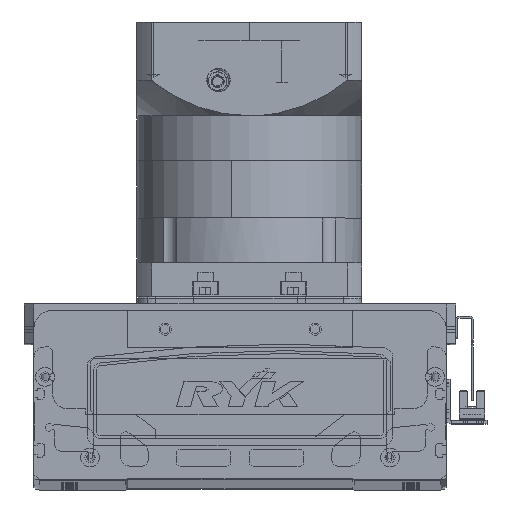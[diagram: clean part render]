
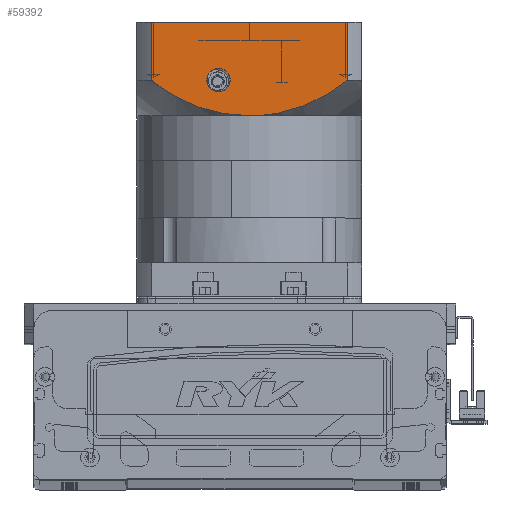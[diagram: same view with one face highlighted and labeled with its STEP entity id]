
A CAD part, top view. The second image highlights one B-rep face of the part: STEP entity #59392.
In plain terms, the highlighted planar face has unit normal (0, 0, 1) as drawn and (0, -1, 0) by its records, which use the part's own axes.
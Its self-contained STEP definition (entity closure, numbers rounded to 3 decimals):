
#113 = CARTESIAN_POINT ( 'NONE',  ( -32.118, -60., -107.084 ) ) ;
#1235 = VECTOR ( 'NONE', #38017, 1000. ) ;
#2153 = DIRECTION ( 'NONE',  ( 0., 0., 1. ) ) ;
#2255 = EDGE_CURVE ( 'NONE', #7006, #65234, #16161, .T. ) ;
#2342 = CARTESIAN_POINT ( 'NONE',  ( 32.196, -60., -107.007 ) ) ;
#2591 = CARTESIAN_POINT ( 'NONE',  ( 16.426, -60., -102.169 ) ) ;
#3098 = CARTESIAN_POINT ( 'NONE',  ( 18.739, -60., -102.681 ) ) ;
#3407 = DIRECTION ( 'NONE',  ( 0., -1., 0. ) ) ;
#3782 = EDGE_CURVE ( 'NONE', #61945, #25130, #24673, .T. ) ;
#3827 = AXIS2_PLACEMENT_3D ( 'NONE', #73370, #45134, #55467 ) ;
#5071 = EDGE_CURVE ( 'NONE', #64878, #55825, #64120, .T. ) ;
#5115 = CARTESIAN_POINT ( 'NONE',  ( 0., -60., -100.5 ) ) ;
#5907 = EDGE_CURVE ( 'NONE', #61945, #34708, #67157, .T. ) ;
#7006 = VERTEX_POINT ( 'NONE', #5115 ) ;
#8102 = CARTESIAN_POINT ( 'NONE',  ( 9.454, -60., -100.914 ) ) ;
#9421 = DIRECTION ( 'NONE',  ( 1., 0., 0. ) ) ;
#11668 = CARTESIAN_POINT ( 'NONE',  ( -29.939, -60., -106.183 ) ) ;
#12165 = ORIENTED_EDGE ( 'NONE', *, *, #5071, .T. ) ;
#12696 = CARTESIAN_POINT ( 'NONE',  ( -52.156, -60., -119.5 ) ) ;
#13775 = CARTESIAN_POINT ( 'NONE',  ( 52.156, -60., -150.5 ) ) ;
#13896 = EDGE_CURVE ( 'NONE', #55825, #64878, #25468, .T. ) ;
#14428 = CARTESIAN_POINT ( 'NONE',  ( 36.444, -60., -108.986 ) ) ;
#16161 = B_SPLINE_CURVE_WITH_KNOTS ( 'NONE', 3,
 ( #53970, #65791, #8102, #31051, #2591, #3098, #60029, #19713, #59766, #2342, #14428, #66045, #37363, #54701, #65300, #25771, #65540, #25530 ),
 .UNSPECIFIED., .F., .F.,
 ( 4, 2, 2, 2, 2, 2, 2, 2, 4 ),
 ( 0., 0.014, 0.018, 0.021, 0.028, 0.042, 0.046, 0.05, 0.057 ),
 .UNSPECIFIED. ) ;
#17470 = CARTESIAN_POINT ( 'NONE',  ( -2.376, -60., -100.5 ) ) ;
#17722 = CARTESIAN_POINT ( 'NONE',  ( -48.52, -60., -116.438 ) ) ;
#19282 = ORIENTED_EDGE ( 'NONE', *, *, #70291, .F. ) ;
#19713 = CARTESIAN_POINT ( 'NONE',  ( 23.329, -60., -103.886 ) ) ;
#20892 = ORIENTED_EDGE ( 'NONE', *, *, #3782, .T. ) ;
#21976 = FACE_BOUND ( 'NONE', #31499, .T. ) ;
#23118 = EDGE_LOOP ( 'NONE', ( #26058, #20892, #69422, #66731, #19282 ) ) ;
#24041 = CARTESIAN_POINT ( 'NONE',  ( -9.477, -60., -101.046 ) ) ;
#24398 = AXIS2_PLACEMENT_3D ( 'NONE', #55209, #61489, #39623 ) ;
#24673 = LINE ( 'NONE', #55121, #1235 ) ;
#25130 = VERTEX_POINT ( 'NONE', #58635 ) ;
#25468 = CIRCLE ( 'NONE', #24398, 6.25 ) ;
#25530 = CARTESIAN_POINT ( 'NONE',  ( 52.156, -60., -119.5 ) ) ;
#25771 = CARTESIAN_POINT ( 'NONE',  ( 48.457, -60., -116.522 ) ) ;
#26058 = ORIENTED_EDGE ( 'NONE', *, *, #5907, .F. ) ;
#29084 = CARTESIAN_POINT ( 'NONE',  ( -18.792, -60., -102.562 ) ) ;
#29343 = CARTESIAN_POINT ( 'NONE',  ( -12.993, -60., -101.537 ) ) ;
#30617 = CARTESIAN_POINT ( 'NONE',  ( -52.156, -60., -97.5 ) ) ;
#31051 = CARTESIAN_POINT ( 'NONE',  ( 15.267, -60., -101.938 ) ) ;
#31499 = EDGE_LOOP ( 'NONE', ( #12165, #72898 ) ) ;
#34634 = CARTESIAN_POINT ( 'NONE',  ( -39.546, -60., -110.776 ) ) ;
#34708 = VERTEX_POINT ( 'NONE', #69082 ) ;
#36410 = CARTESIAN_POINT ( 'NONE',  ( 16.5, -60., -125.75 ) ) ;
#36504 = VECTOR ( 'NONE', #2153, 1000. ) ;
#37363 = CARTESIAN_POINT ( 'NONE',  ( 42.555, -60., -112.543 ) ) ;
#38017 = DIRECTION ( 'NONE',  ( 1., 0., 0. ) ) ;
#39623 = DIRECTION ( 'NONE',  ( 0., 0., -1. ) ) ;
#40153 = CARTESIAN_POINT ( 'NONE',  ( 52.156, -60., -119.5 ) ) ;
#40936 = CARTESIAN_POINT ( 'NONE',  ( -4.747, -60., -100.604 ) ) ;
#43041 = B_SPLINE_CURVE_WITH_KNOTS ( 'NONE', 3,
 ( #12696, #17722, #64072, #34634, #57785, #52236, #46226, #113, #11668, #51986, #29084, #29343, #69915, #24041, #52490, #40936, #17470, #69168 ),
 .UNSPECIFIED., .F., .F.,
 ( 4, 2, 2, 2, 2, 2, 2, 2, 4 ),
 ( 0., 0.014, 0.018, 0.021, 0.028, 0.042, 0.046, 0.05, 0.057 ),
 .UNSPECIFIED. ) ;
#43937 = PLANE ( 'NONE',  #55087 ) ;
#44859 = CARTESIAN_POINT ( 'NONE',  ( 16.5, -60., -113.25 ) ) ;
#45134 = DIRECTION ( 'NONE',  ( 0., 1., 0. ) ) ;
#46226 = CARTESIAN_POINT ( 'NONE',  ( -35.342, -60., -108.587 ) ) ;
#49462 = LINE ( 'NONE', #13775, #65643 ) ;
#49705 = EDGE_CURVE ( 'NONE', #25130, #65234, #49462, .T. ) ;
#51986 = CARTESIAN_POINT ( 'NONE',  ( -23.319, -60., -103.777 ) ) ;
#52236 = CARTESIAN_POINT ( 'NONE',  ( -36.409, -60., -109.113 ) ) ;
#52490 = CARTESIAN_POINT ( 'NONE',  ( -8.294, -60., -100.916 ) ) ;
#53338 = CARTESIAN_POINT ( 'NONE',  ( -52.156, -60., -150.5 ) ) ;
#53970 = CARTESIAN_POINT ( 'NONE',  ( 0., -60., -100.5 ) ) ;
#54701 = CARTESIAN_POINT ( 'NONE',  ( 44.553, -60., -113.817 ) ) ;
#55087 = AXIS2_PLACEMENT_3D ( 'NONE', #55785, #3407, #9421 ) ;
#55121 = CARTESIAN_POINT ( 'NONE',  ( -60., -60., -150.5 ) ) ;
#55209 = CARTESIAN_POINT ( 'NONE',  ( 16.5, -60., -119.5 ) ) ;
#55467 = DIRECTION ( 'NONE',  ( 0., 0., -1. ) ) ;
#55785 = CARTESIAN_POINT ( 'NONE',  ( -60., -60., -150.5 ) ) ;
#55825 = VERTEX_POINT ( 'NONE', #44859 ) ;
#57785 = CARTESIAN_POINT ( 'NONE',  ( -38.51, -60., -110.207 ) ) ;
#58003 = FACE_OUTER_BOUND ( 'NONE', #23118, .T. ) ;
#58635 = CARTESIAN_POINT ( 'NONE',  ( 52.156, -60., -150.5 ) ) ;
#59392 = ADVANCED_FACE ( 'NONE', ( #58003, #21976 ), #43937, .T. ) ;
#59766 = CARTESIAN_POINT ( 'NONE',  ( 25.577, -60., -104.596 ) ) ;
#60029 = CARTESIAN_POINT ( 'NONE',  ( 19.894, -60., -102.964 ) ) ;
#61489 = DIRECTION ( 'NONE',  ( 0., 1., 0. ) ) ;
#61945 = VERTEX_POINT ( 'NONE', #53338 ) ;
#64072 = CARTESIAN_POINT ( 'NONE',  ( -44.656, -60., -113.73 ) ) ;
#64120 = CIRCLE ( 'NONE', #3827, 6.25 ) ;
#64878 = VERTEX_POINT ( 'NONE', #36410 ) ;
#65234 = VERTEX_POINT ( 'NONE', #40153 ) ;
#65300 = CARTESIAN_POINT ( 'NONE',  ( 45.542, -60., -114.478 ) ) ;
#65540 = CARTESIAN_POINT ( 'NONE',  ( 50.338, -60., -117.969 ) ) ;
#65643 = VECTOR ( 'NONE', #66128, 1000. ) ;
#65791 = CARTESIAN_POINT ( 'NONE',  ( 4.753, -60., -100.5 ) ) ;
#66045 = CARTESIAN_POINT ( 'NONE',  ( 41.545, -60., -111.931 ) ) ;
#66128 = DIRECTION ( 'NONE',  ( 0., 0., 1. ) ) ;
#66731 = ORIENTED_EDGE ( 'NONE', *, *, #2255, .F. ) ;
#67157 = LINE ( 'NONE', #30617, #36504 ) ;
#69082 = CARTESIAN_POINT ( 'NONE',  ( -52.156, -60., -119.5 ) ) ;
#69168 = CARTESIAN_POINT ( 'NONE',  ( 0., -60., -100.5 ) ) ;
#69422 = ORIENTED_EDGE ( 'NONE', *, *, #49705, .T. ) ;
#69915 = CARTESIAN_POINT ( 'NONE',  ( -11.825, -60., -101.356 ) ) ;
#70291 = EDGE_CURVE ( 'NONE', #34708, #7006, #43041, .T. ) ;
#72898 = ORIENTED_EDGE ( 'NONE', *, *, #13896, .T. ) ;
#73370 = CARTESIAN_POINT ( 'NONE',  ( 16.5, -60., -119.5 ) ) ;
